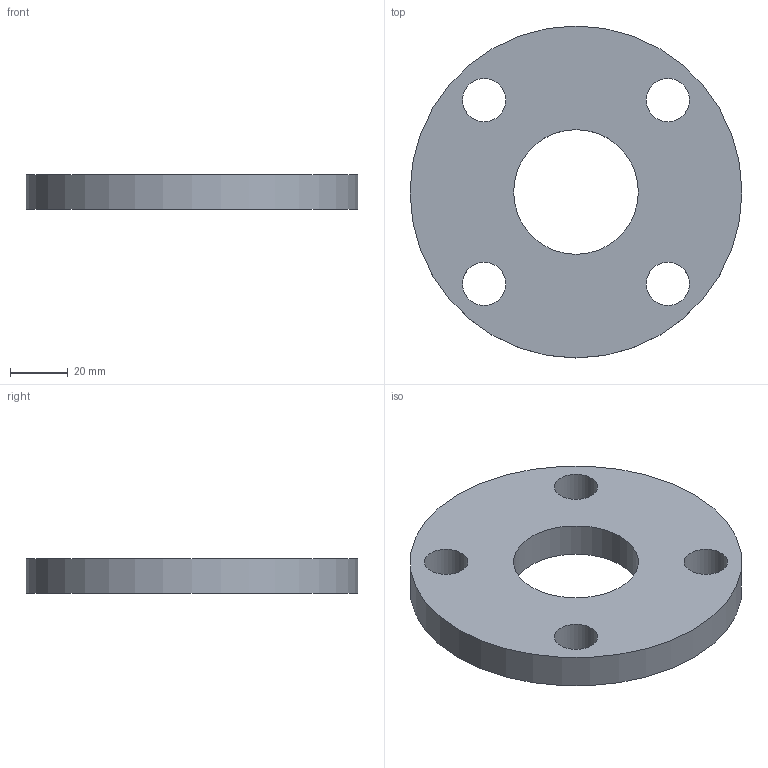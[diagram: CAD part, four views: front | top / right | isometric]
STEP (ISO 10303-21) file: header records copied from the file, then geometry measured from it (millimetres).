
FILE_DESCRIPTION(/* description */ (''),/* implementation_level */ '2;1');
FILE_NAME(/* name */ 'C:\Users\D\Documents\Inventor\HP\JIS\フランジ\JIS 5k sop ff\jis5k-sop-ff-32.stp',/* time_stamp */ '2024-09-12T16:54:38+09:00',/* author */ ('D'),/* organization */ (''),/* preprocessor_version */ 'ST-DEVELOPER v18',/* originating_system */ 'Autodesk Inventor 2020',/* authorisation */ '');
FILE_SCHEMA (('AUTOMOTIVE_DESIGN { 1 0 10303 214 3 1 1 }'));
Length unit declared in the file: millimetre
Products named in the file (1): jis5k-sop-rf-10
Bounding box: 115 x 115 x 12 mm (x, y, z)
Volume: 98571.5 mm3; surface area: 24654.5 mm2
Topology: 1 solids, 1 shells, 8 faces, 25 edges, 19 vertices
Faces by surface type: cylinder 6, plane 2
Full cylindrical faces by diameter (mm): 15 x4, 43.2 x1, 115 x1
Entity records: 365 total; most frequent: DIRECTION 62, CARTESIAN_POINT 53, ORIENTED_EDGE 50, AXIS2_PLACEMENT_3D 28, EDGE_CURVE 25, CIRCLE 19, VERTEX_POINT 19, EDGE_LOOP 18
